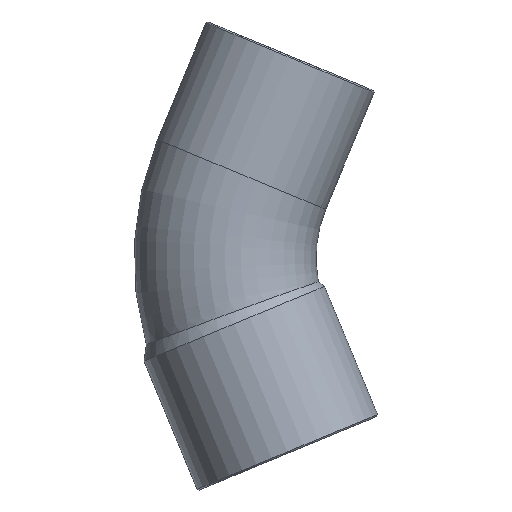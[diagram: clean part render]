
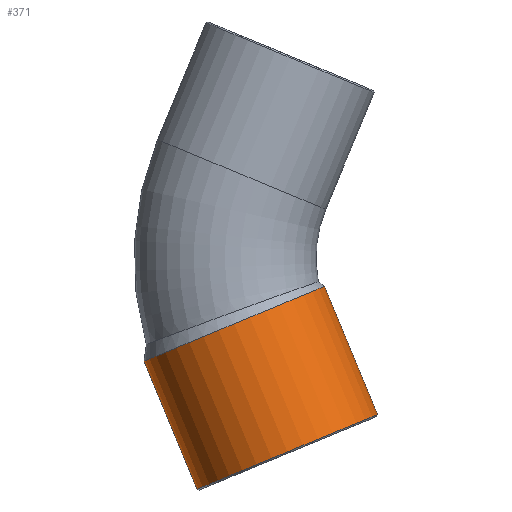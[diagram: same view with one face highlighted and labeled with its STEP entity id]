
A CAD part, front view. The second image highlights one B-rep face of the part: STEP entity #371.
In plain terms, the highlighted cylindrical face has radius 13.4 mm (diameter 26.8 mm), a partial arc.
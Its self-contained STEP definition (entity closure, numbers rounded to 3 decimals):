
#178=CARTESIAN_POINT('',(-36.682,0.,-14.144));
#179=VERTEX_POINT('',#178);
#186=CARTESIAN_POINT('',(-11.922,0.,-3.888));
#187=VERTEX_POINT('',#186);
#188=CARTESIAN_POINT('',(-24.302,0.,-9.016));
#189=DIRECTION('',(-0.383,0.,0.924));
#190=DIRECTION('',(0.924,0.0,0.383));
#191=AXIS2_PLACEMENT_3D('',#188,#189,#190);
#192=CIRCLE('',#191,13.4);
#193=EDGE_CURVE('',#179,#187,#192,.T.);
#340=CARTESIAN_POINT('',(-24.21,0.,-9.239));
#341=DIRECTION('',(0.383,0.,-0.924));
#342=DIRECTION('',(0.924,0.0,0.383));
#343=AXIS2_PLACEMENT_3D('',#340,#341,#342);
#344=CYLINDRICAL_SURFACE('',#343,13.4);
#345=CARTESIAN_POINT('',(-4.636,0.,-21.48));
#346=VERTEX_POINT('',#345);
#347=CARTESIAN_POINT('',(-11.922,0.,-3.888));
#348=DIRECTION('',(0.383,0.,-0.924));
#349=VECTOR('',#348,19.041);
#350=LINE('',#347,#349);
#351=EDGE_CURVE('',#187,#346,#350,.T.);
#352=ORIENTED_EDGE('',*,*,#351,.F.);
#353=ORIENTED_EDGE('',*,*,#193,.F.);
#354=CARTESIAN_POINT('',(-29.395,0.,-31.736));
#355=VERTEX_POINT('',#354);
#356=CARTESIAN_POINT('',(-29.395,0.,-31.736));
#357=DIRECTION('',(-0.383,0.,0.924));
#358=VECTOR('',#357,19.041);
#359=LINE('',#356,#358);
#360=EDGE_CURVE('',#355,#179,#359,.T.);
#361=ORIENTED_EDGE('',*,*,#360,.F.);
#362=CARTESIAN_POINT('',(-17.016,0.,-26.608));
#363=DIRECTION('',(0.383,0.,-0.924));
#364=DIRECTION('',(0.924,0.0,0.383));
#365=AXIS2_PLACEMENT_3D('',#362,#363,#364);
#366=CIRCLE('',#365,13.4);
#367=EDGE_CURVE('',#346,#355,#366,.T.);
#368=ORIENTED_EDGE('',*,*,#367,.F.);
#369=EDGE_LOOP('',(#352,#353,#361,#368));
#370=FACE_OUTER_BOUND('',#369,.T.);
#371=ADVANCED_FACE('',(#370),#344,.T.);
